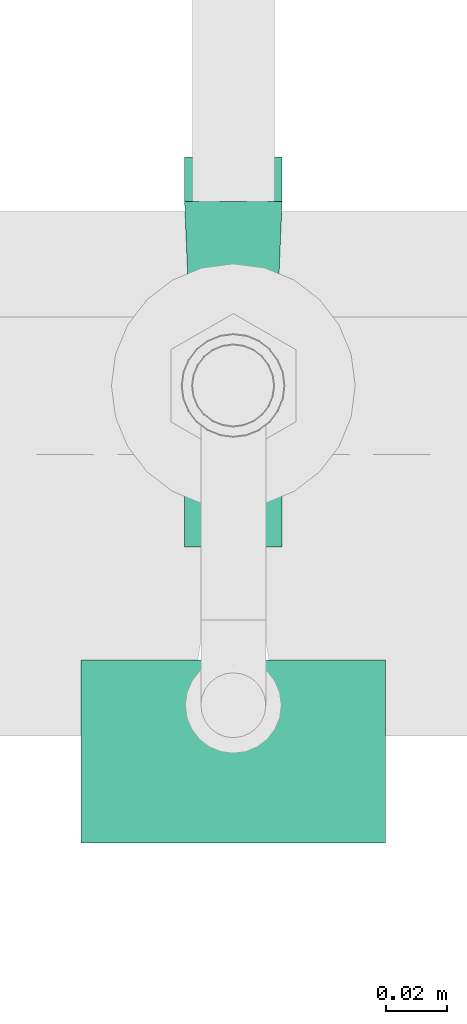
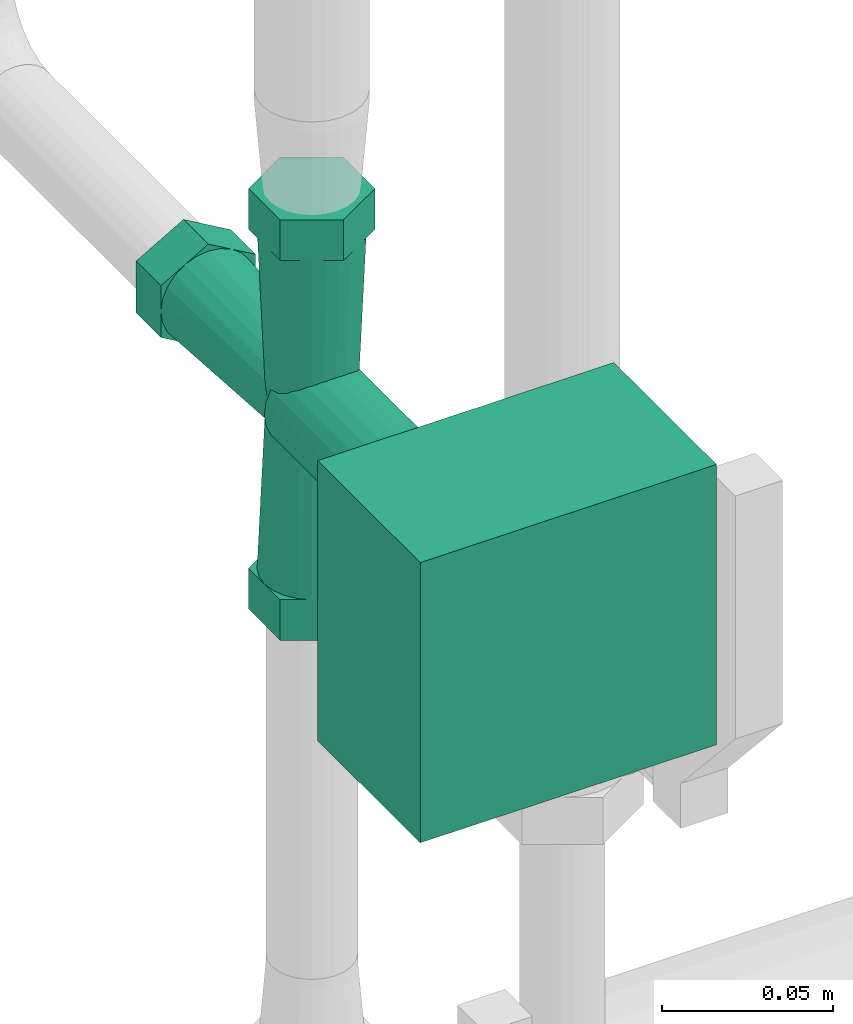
# One storey, part 80 of 374: 1 flow controller.
"""IFC2X3 building model written with IfcOpenShell, lengths in metres."""

from ifc_helpers import new_model, si_unit, direction, origin, place, context, subcontext, project, spatial, open_shell, surface_model, source, transform, mapped, element, save


model = new_model("IFC2X3")

# Units and contexts
model_context = context("Model", 3, precision=1e-05, world=origin(), true_north=direction((-0.4480736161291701, 0.8939966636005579)))
body_context = subcontext(model_context, "Body", "Model", "MODEL_VIEW")
ifc_project = project(units=[si_unit("LENGTHUNIT", "METRE"), si_unit("AREAUNIT", "SQUARE_METRE"), si_unit("VOLUMEUNIT", "CUBIC_METRE"), si_unit("PLANEANGLEUNIT", "RADIAN"), si_unit("THERMODYNAMICTEMPERATUREUNIT", "KELVIN"), si_unit("MASSUNIT", "GRAM", prefix="KILO"), si_unit("TIMEUNIT", "SECOND")], contexts=[model_context])

# Site, building, storey
site_placement = place(None, origin())
site = spatial("IfcSite", under=ifc_project, at=site_placement, Name="Site 1", CompositionType="ELEMENT")
building_placement = place(site_placement, origin())
building = spatial("IfcBuilding", under=site, at=building_placement, Name="Undefined", CompositionType="ELEMENT")
storey_placement = place(building_placement, origin())
storey = spatial("IfcBuildingStorey", under=building, at=storey_placement, Name="Rez de chauss\x8ee", CompositionType="ELEMENT", Elevation=0.0)

# Flow controller
shared_shape = source(origin(), body_context, "Body", "SurfaceModel", [
    surface_model("IfcFaceBasedSurfaceModel", [(0.0, 0.09999999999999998, 0.0), (0.0, 0.0, 0.0), (0.10000000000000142, 8.8817842e-16, 1.776356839e-15), (0.10000000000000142, 0.09999999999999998, 0.0), (0.10000000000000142, 0.0, 0.05999999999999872), (0.10000000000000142, 0.09999999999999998, 0.05999999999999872), (0.0, 0.0, 0.05999999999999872), (0.0, 0.09999999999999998, 0.05999999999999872), (0.03399999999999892, 0.125, -0.0992376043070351), (0.03399999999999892, 0.125, -0.0807623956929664), (0.03399999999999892, 0.11050000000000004, -0.0807623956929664), (0.03399999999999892, 0.11050000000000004, -0.0992376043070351), (0.05000000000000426, 0.125, -0.10847520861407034), (0.05000000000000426, 0.11050000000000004, -0.10847520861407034), (0.0660000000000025, 0.125, -0.0992376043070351), (0.0660000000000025, 0.11050000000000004, -0.0992376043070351), (0.0660000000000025, 0.125, -0.0807623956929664), (0.0660000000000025, 0.11050000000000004, -0.0807623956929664), (0.05000000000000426, 0.125, -0.07152479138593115), (0.05000000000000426, 0.11050000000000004, -0.07152479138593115), (0.05000000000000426, 0.11050000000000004, -0.10600000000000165), (0.054141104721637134, 0.11050000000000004, -0.10545481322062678), (0.05348111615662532, 0.04999999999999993, -0.10299170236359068), (0.05000000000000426, 0.04999999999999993, -0.10345000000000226), (0.05799999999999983, 0.11050000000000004, -0.10385640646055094), (0.056725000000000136, 0.04999999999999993, -0.10164804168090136), (0.061313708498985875, 0.11050000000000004, -0.10131370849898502), (0.05951058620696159, 0.04999999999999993, -0.09951058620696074), (0.0638564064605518, 0.11050000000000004, -0.09800000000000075), (0.06164804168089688, 0.04999999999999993, -0.09672500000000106), (0.06545481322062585, 0.11050000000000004, -0.09414110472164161), (0.06299170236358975, 0.04999999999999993, -0.09348111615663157), (0.0660000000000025, 0.11050000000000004, -0.09000000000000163), (0.06344999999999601, 0.04999999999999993, -0.09000000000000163), (0.06545481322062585, 0.11050000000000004, -0.08585889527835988), (0.06299170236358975, 0.04999999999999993, -0.0865188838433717), (0.0638564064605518, 0.11050000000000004, -0.08200000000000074), (0.06164804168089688, 0.04999999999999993, -0.08327500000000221), (0.061313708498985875, 0.11050000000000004, -0.07868629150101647), (0.05951058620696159, 0.04999999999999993, -0.08048941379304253), (0.05799999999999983, 0.11050000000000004, -0.07614359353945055), (0.056725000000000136, 0.04999999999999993, -0.07835195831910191), (0.054141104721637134, 0.11050000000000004, -0.07454518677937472), (0.05348111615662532, 0.04999999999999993, -0.07700829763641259), (0.05000000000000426, 0.11050000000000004, -0.07400000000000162), (0.05000000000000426, 0.04999999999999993, -0.07655000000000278), (0.04585889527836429, 0.11050000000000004, -0.07454518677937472), (0.046518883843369, 0.04999999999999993, -0.07700829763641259), (0.04200000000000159, 0.11050000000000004, -0.07614359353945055), (0.043275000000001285, 0.04999999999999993, -0.07835195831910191), (0.038686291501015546, 0.11050000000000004, -0.07868629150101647), (0.04048941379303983, 0.04999999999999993, -0.08048941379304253), (0.036143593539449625, 0.11050000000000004, -0.08200000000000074), (0.038351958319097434, 0.04999999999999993, -0.08327500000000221), (0.03454518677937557, 0.11050000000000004, -0.08585889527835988), (0.03700829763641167, 0.04999999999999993, -0.0865188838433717), (0.03399999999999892, 0.11050000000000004, -0.09000000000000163), (0.036549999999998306, 0.04999999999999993, -0.09000000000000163), (0.03454518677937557, 0.11050000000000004, -0.09414110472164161), (0.03700829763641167, 0.04999999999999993, -0.09348111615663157), (0.036143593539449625, 0.11050000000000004, -0.09800000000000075), (0.038351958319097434, 0.04999999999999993, -0.09672500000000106), (0.038686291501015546, 0.11050000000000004, -0.10131370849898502), (0.04048941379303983, 0.04999999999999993, -0.09951058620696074), (0.04200000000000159, 0.11050000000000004, -0.10385640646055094), (0.043275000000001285, 0.04999999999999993, -0.10164804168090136), (0.04585889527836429, 0.11050000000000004, -0.10545481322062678), (0.046518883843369, 0.04999999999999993, -0.10299170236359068), (0.054141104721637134, -0.010500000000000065, -0.105454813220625), (0.04999999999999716, -0.010500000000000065, -0.10600000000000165), (0.057999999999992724, -0.010500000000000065, -0.10385640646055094), (0.06131370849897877, -0.010500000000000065, -0.10131370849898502), (0.06385640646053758, -0.010500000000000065, -0.09800000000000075), (0.06545481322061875, -0.010500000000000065, -0.09414110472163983), (0.06599999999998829, -0.010500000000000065, -0.09000000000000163), (0.06545481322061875, -0.010500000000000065, -0.08585889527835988), (0.06385640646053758, -0.010500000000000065, -0.08199999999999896), (0.06131370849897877, -0.010500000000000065, -0.0786862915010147), (0.057999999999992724, -0.010500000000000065, -0.07614359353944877), (0.054141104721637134, -0.010500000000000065, -0.07454518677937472), (0.04999999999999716, -0.010500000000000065, -0.07399999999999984), (0.045858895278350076, -0.010500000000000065, -0.07454518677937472), (0.041999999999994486, -0.010500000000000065, -0.07614359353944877), (0.03868629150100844, -0.010500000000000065, -0.0786862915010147), (0.03614359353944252, -0.010500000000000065, -0.08199999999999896), (0.034545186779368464, -0.010500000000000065, -0.08585889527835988), (0.033999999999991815, -0.010500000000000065, -0.09000000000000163), (0.034545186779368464, -0.010500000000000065, -0.09414110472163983), (0.03614359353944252, -0.010500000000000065, -0.09800000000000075), (0.03868629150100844, -0.010500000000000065, -0.10131370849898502), (0.041999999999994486, -0.010500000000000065, -0.10385640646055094), (0.045858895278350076, -0.010500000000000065, -0.105454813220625), (0.03399999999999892, -0.010500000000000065, -0.0992376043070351), (0.03399999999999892, -0.010500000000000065, -0.0807623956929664), (0.03399999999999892, -0.025000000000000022, -0.0807623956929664), (0.03399999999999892, -0.025000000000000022, -0.0992376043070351), (0.05000000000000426, -0.010500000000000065, -0.10847520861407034), (0.05000000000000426, -0.025000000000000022, -0.10847520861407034), (0.0660000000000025, -0.010500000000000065, -0.0992376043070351), (0.0660000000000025, -0.025000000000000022, -0.0992376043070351), (0.0660000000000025, -0.010500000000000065, -0.0807623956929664), (0.0660000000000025, -0.025000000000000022, -0.0807623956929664), (0.05000000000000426, -0.010500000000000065, -0.07152479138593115), (0.05000000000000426, -0.025000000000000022, -0.07152479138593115), (0.0660000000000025, 0.04999999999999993, -0.09000000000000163), (0.06545481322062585, 0.054141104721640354, -0.09000000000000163), (0.06545481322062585, 0.054141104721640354, -0.03700000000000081), (0.0660000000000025, 0.04999999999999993, -0.03700000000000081), (0.0638564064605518, 0.05799999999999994, -0.09000000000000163), (0.0638564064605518, 0.05799999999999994, -0.03700000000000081), (0.061313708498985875, 0.061313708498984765, -0.09000000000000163), (0.061313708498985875, 0.061313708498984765, -0.03700000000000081), (0.05799999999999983, 0.06385640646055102, -0.09000000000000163), (0.05799999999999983, 0.06385640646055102, -0.03700000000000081), (0.054141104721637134, 0.06545481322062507, -0.09000000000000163), (0.054141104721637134, 0.06545481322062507, -0.03700000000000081), (0.05000000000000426, 0.06599999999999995, -0.09000000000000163), (0.05000000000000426, 0.06599999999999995, -0.03700000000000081), (0.04585889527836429, 0.06545481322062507, -0.09000000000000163), (0.04585889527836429, 0.06545481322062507, -0.03700000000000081), (0.04200000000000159, 0.06385640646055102, -0.09000000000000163), (0.04200000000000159, 0.06385640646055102, -0.03700000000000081), (0.038686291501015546, 0.061313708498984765, -0.09000000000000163), (0.038686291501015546, 0.061313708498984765, -0.03700000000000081), (0.036143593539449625, 0.05799999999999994, -0.09000000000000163), (0.036143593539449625, 0.05799999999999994, -0.03700000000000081), (0.03454518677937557, 0.054141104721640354, -0.09000000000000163), (0.03454518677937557, 0.054141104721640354, -0.03700000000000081), (0.03399999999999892, 0.04999999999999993, -0.09000000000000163), (0.03399999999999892, 0.04999999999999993, -0.03700000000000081), (0.03454518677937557, 0.045858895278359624, -0.09000000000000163), (0.03454518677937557, 0.045858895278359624, -0.03700000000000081), (0.036143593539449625, 0.04200000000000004, -0.09000000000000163), (0.036143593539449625, 0.04200000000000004, -0.03700000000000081), (0.038686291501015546, 0.03868629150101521, -0.09000000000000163), (0.038686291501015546, 0.03868629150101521, -0.03700000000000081), (0.04200000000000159, 0.03614359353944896, -0.09000000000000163), (0.04200000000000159, 0.03614359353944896, -0.03700000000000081), (0.04585889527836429, 0.0345451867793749, -0.09000000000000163), (0.04585889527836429, 0.0345451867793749, -0.03700000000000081), (0.05000000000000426, 0.03400000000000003, -0.09000000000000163), (0.05000000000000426, 0.03400000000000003, -0.03700000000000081), (0.054141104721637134, 0.0345451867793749, -0.09000000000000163), (0.054141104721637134, 0.0345451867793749, -0.03700000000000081), (0.05799999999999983, 0.03614359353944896, -0.09000000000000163), (0.05799999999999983, 0.03614359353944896, -0.03700000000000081), (0.061313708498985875, 0.03868629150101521, -0.09000000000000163), (0.061313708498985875, 0.03868629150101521, -0.03700000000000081), (0.0638564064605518, 0.04200000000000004, -0.09000000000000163), (0.0638564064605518, 0.04200000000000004, -0.03700000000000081), (0.06545481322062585, 0.045858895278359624, -0.09000000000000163), (0.06545481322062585, 0.045858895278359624, -0.03700000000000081), (0.05000000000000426, 0.04999999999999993, -0.09000000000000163), (0.05000000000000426, 0.04999999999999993, -0.03700000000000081), (0.051600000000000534, 0.04999999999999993, -0.03700000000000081), (0.051131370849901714, 0.051131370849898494, -0.03700000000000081), (0.051131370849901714, 0.051131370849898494, 0.0), (0.051600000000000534, 0.04999999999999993, 0.0), (0.05000000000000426, 0.05159999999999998, -0.03700000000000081), (0.05000000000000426, 0.05159999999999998, 0.0), (0.04886862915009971, 0.051131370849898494, -0.03700000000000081), (0.04886862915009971, 0.051131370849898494, 0.0), (0.04840000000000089, 0.04999999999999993, -0.03700000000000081), (0.04840000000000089, 0.04999999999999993, 0.0), (0.04886862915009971, 0.048868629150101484, -0.03700000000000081), (0.04886862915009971, 0.048868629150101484, 0.0), (0.05000000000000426, 0.0484, -0.03700000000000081), (0.05000000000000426, 0.0484, 0.0), (0.051131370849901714, 0.048868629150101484, -0.03700000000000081), (0.051131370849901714, 0.048868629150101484, 0.0), (0.05000000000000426, 0.04999999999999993, 0.0), (0.05000000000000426, 0.06345, -0.09000000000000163), (0.053481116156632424, 0.06299170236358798, -0.09000000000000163), (0.054141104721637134, 0.06545481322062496, -0.15050000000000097), (0.04999999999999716, 0.06599999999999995, -0.15050000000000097), (0.056725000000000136, 0.06164804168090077, -0.09000000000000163), (0.057999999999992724, 0.06385640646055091, -0.15050000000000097), (0.05951058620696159, 0.05951058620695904, -0.09000000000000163), (0.06131370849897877, 0.061313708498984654, -0.15050000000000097), (0.06164804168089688, 0.056725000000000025, -0.09000000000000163), (0.06385640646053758, 0.05799999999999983, -0.15050000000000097), (0.06299170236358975, 0.05348111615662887, -0.09000000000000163), (0.06545481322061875, 0.05414110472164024, -0.15050000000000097), (0.06599999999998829, 0.04999999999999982, -0.15050000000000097), (0.06299170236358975, 0.046518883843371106, -0.09000000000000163), (0.06545481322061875, 0.04585889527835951, -0.15050000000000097), (0.06164804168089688, 0.04327499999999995, -0.09000000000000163), (0.06385640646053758, 0.041999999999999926, -0.15050000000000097), (0.05951058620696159, 0.04048941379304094, -0.09000000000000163), (0.06131370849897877, 0.0386862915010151, -0.15050000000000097), (0.056725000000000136, 0.03835195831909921, -0.09000000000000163), (0.057999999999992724, 0.03614359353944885, -0.15050000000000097), (0.053481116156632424, 0.037008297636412, -0.09000000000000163), (0.054141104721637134, 0.03454518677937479, -0.15050000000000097), (0.05000000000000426, 0.03654999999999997, -0.09000000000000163), (0.04999999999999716, 0.03399999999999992, -0.15050000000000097), (0.046518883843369, 0.037008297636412, -0.09000000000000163), (0.045858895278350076, 0.03454518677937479, -0.15050000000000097), (0.043275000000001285, 0.03835195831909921, -0.09000000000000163), (0.041999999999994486, 0.03614359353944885, -0.15050000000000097), (0.04048941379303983, 0.04048941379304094, -0.09000000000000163), (0.03868629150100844, 0.0386862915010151, -0.15050000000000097), (0.03835195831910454, 0.04327499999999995, -0.09000000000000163), (0.03614359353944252, 0.041999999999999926, -0.15050000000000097), (0.03700829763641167, 0.046518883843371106, -0.09000000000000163), (0.034545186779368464, 0.04585889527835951, -0.15050000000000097), (0.033999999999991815, 0.04999999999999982, -0.15050000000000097), (0.03700829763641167, 0.05348111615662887, -0.09000000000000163), (0.034545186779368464, 0.05414110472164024, -0.15050000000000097), (0.03835195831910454, 0.056725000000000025, -0.09000000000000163), (0.03614359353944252, 0.05799999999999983, -0.15050000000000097), (0.04048941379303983, 0.05951058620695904, -0.09000000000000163), (0.03868629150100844, 0.061313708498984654, -0.15050000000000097), (0.043275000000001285, 0.06164804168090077, -0.09000000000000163), (0.041999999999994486, 0.06385640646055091, -0.15050000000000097), (0.046518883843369, 0.06299170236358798, -0.09000000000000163), (0.045858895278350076, 0.06545481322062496, -0.15050000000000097), (0.03399999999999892, 0.040762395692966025, -0.15050000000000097), (0.05000000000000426, 0.031524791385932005, -0.15050000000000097), (0.05000000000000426, 0.031524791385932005, -0.16500000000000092), (0.03399999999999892, 0.040762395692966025, -0.16500000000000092), (0.03399999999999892, 0.05923760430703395, -0.15050000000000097), (0.03399999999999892, 0.05923760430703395, -0.16500000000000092), (0.05000000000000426, 0.06847520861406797, -0.15050000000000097), (0.05000000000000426, 0.06847520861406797, -0.16500000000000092), (0.0660000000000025, 0.05923760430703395, -0.15050000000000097), (0.0660000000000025, 0.05923760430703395, -0.16500000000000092), (0.0660000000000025, 0.040762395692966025, -0.15050000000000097), (0.0660000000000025, 0.040762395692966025, -0.16500000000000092)], [open_shell([[[0, 1, 2, 3]], [[3, 2, 4, 5]], [[5, 4, 6, 7]], [[7, 6, 1, 0]], [[0, 3, 5, 7]], [[6, 4, 2, 1]], [[8, 9, 10, 11]], [[12, 8, 11, 13]], [[14, 12, 13, 15]], [[16, 14, 15, 17]], [[18, 16, 17, 19]], [[9, 18, 19, 10]], [[9, 8, 12]], [[9, 12, 14]], [[9, 14, 16]], [[9, 16, 18]], [[10, 13, 11]], [[10, 15, 13]], [[10, 17, 15]], [[10, 19, 17]], [[20, 21, 22, 23]], [[21, 24, 25, 22]], [[24, 26, 27, 25]], [[26, 28, 29, 27]], [[28, 30, 31, 29]], [[30, 32, 33, 31]], [[32, 34, 35, 33]], [[34, 36, 37, 35]], [[36, 38, 39, 37]], [[38, 40, 41, 39]], [[40, 42, 43, 41]], [[42, 44, 45, 43]], [[44, 46, 47, 45]], [[46, 48, 49, 47]], [[48, 50, 51, 49]], [[50, 52, 53, 51]], [[52, 54, 55, 53]], [[54, 56, 57, 55]], [[56, 58, 59, 57]], [[58, 60, 61, 59]], [[60, 62, 63, 61]], [[62, 64, 65, 63]], [[64, 66, 67, 65]], [[66, 20, 23, 67]], [[23, 22, 68, 69]], [[22, 25, 70, 68]], [[25, 27, 71, 70]], [[27, 29, 72, 71]], [[29, 31, 73, 72]], [[31, 33, 74, 73]], [[33, 35, 75, 74]], [[35, 37, 76, 75]], [[37, 39, 77, 76]], [[39, 41, 78, 77]], [[41, 43, 79, 78]], [[43, 45, 80, 79]], [[45, 47, 81, 80]], [[47, 49, 82, 81]], [[49, 51, 83, 82]], [[51, 53, 84, 83]], [[53, 55, 85, 84]], [[55, 57, 86, 85]], [[57, 59, 87, 86]], [[59, 61, 88, 87]], [[61, 63, 89, 88]], [[63, 65, 90, 89]], [[65, 67, 91, 90]], [[67, 23, 69, 91]], [[92, 93, 94, 95]], [[96, 92, 95, 97]], [[98, 96, 97, 99]], [[100, 98, 99, 101]], [[102, 100, 101, 103]], [[93, 102, 103, 94]], [[93, 92, 96]], [[93, 96, 98]], [[93, 98, 100]], [[93, 100, 102]], [[94, 97, 95]], [[94, 99, 97]], [[94, 101, 99]], [[94, 103, 101]], [[104, 105, 106, 107]], [[105, 108, 109, 106]], [[108, 110, 111, 109]], [[110, 112, 113, 111]], [[112, 114, 115, 113]], [[114, 116, 117, 115]], [[116, 118, 119, 117]], [[118, 120, 121, 119]], [[120, 122, 123, 121]], [[122, 124, 125, 123]], [[124, 126, 127, 125]], [[126, 128, 129, 127]], [[128, 130, 131, 129]], [[130, 132, 133, 131]], [[132, 134, 135, 133]], [[134, 136, 137, 135]], [[136, 138, 139, 137]], [[138, 140, 141, 139]], [[140, 142, 143, 141]], [[142, 144, 145, 143]], [[144, 146, 147, 145]], [[146, 148, 149, 147]], [[148, 150, 151, 149]], [[150, 104, 107, 151]], [[152, 105, 104]], [[152, 108, 105]], [[152, 110, 108]], [[152, 112, 110]], [[152, 114, 112]], [[152, 116, 114]], [[152, 118, 116]], [[152, 120, 118]], [[152, 122, 120]], [[152, 124, 122]], [[152, 126, 124]], [[152, 128, 126]], [[152, 130, 128]], [[152, 132, 130]], [[152, 134, 132]], [[152, 136, 134]], [[152, 138, 136]], [[152, 140, 138]], [[152, 142, 140]], [[152, 144, 142]], [[152, 146, 144]], [[152, 148, 146]], [[152, 150, 148]], [[152, 104, 150]], [[153, 151, 107]], [[153, 149, 151]], [[153, 147, 149]], [[153, 145, 147]], [[153, 143, 145]], [[153, 141, 143]], [[153, 139, 141]], [[153, 137, 139]], [[153, 135, 137]], [[153, 133, 135]], [[153, 131, 133]], [[153, 129, 131]], [[153, 127, 129]], [[153, 125, 127]], [[153, 123, 125]], [[153, 121, 123]], [[153, 119, 121]], [[153, 117, 119]], [[153, 115, 117]], [[153, 113, 115]], [[153, 111, 113]], [[153, 109, 111]], [[153, 106, 109]], [[153, 107, 106]], [[154, 155, 156, 157]], [[155, 158, 159, 156]], [[158, 160, 161, 159]], [[160, 162, 163, 161]], [[162, 164, 165, 163]], [[164, 166, 167, 165]], [[166, 168, 169, 167]], [[168, 154, 157, 169]], [[170, 169, 157]], [[170, 167, 169]], [[170, 165, 167]], [[170, 163, 165]], [[170, 161, 163]], [[170, 159, 161]], [[170, 156, 159]], [[170, 157, 156]], [[171, 172, 173, 174]], [[172, 175, 176, 173]], [[175, 177, 178, 176]], [[177, 179, 180, 178]], [[179, 181, 182, 180]], [[181, 33, 183, 182]], [[33, 184, 185, 183]], [[184, 186, 187, 185]], [[186, 188, 189, 187]], [[188, 190, 191, 189]], [[190, 192, 193, 191]], [[192, 194, 195, 193]], [[194, 196, 197, 195]], [[196, 198, 199, 197]], [[198, 200, 201, 199]], [[200, 202, 203, 201]], [[202, 204, 205, 203]], [[204, 57, 206, 205]], [[57, 207, 208, 206]], [[207, 209, 210, 208]], [[209, 211, 212, 210]], [[211, 213, 214, 212]], [[213, 215, 216, 214]], [[215, 171, 174, 216]], [[217, 218, 219, 220]], [[221, 217, 220, 222]], [[223, 221, 222, 224]], [[225, 223, 224, 226]], [[227, 225, 226, 228]], [[218, 227, 228, 219]], [[218, 217, 221]], [[218, 221, 223]], [[218, 223, 225]], [[218, 225, 227]], [[219, 222, 220]], [[219, 224, 222]], [[219, 226, 224]], [[219, 228, 226]]])]),
])
flow_controller_placement = place(storey_placement, origin())
element("IfcFlowController", 1, at=flow_controller_placement, inside=storey, Name="Vanne 3 voies", ObjectType="Vanne 3 voies", context=body_context, shape_type="MappedRepresentation", body=[
    mapped(shared_shape, transform((52.007562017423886, 10.628037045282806, 0.7263512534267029), x_axis=(1.0, 0.0, 0.0), y_axis=(0.0, 0.0, 1.0), z_axis=(0.0, -1.0, 0.0))),
])

save(model, "model.ifc")
